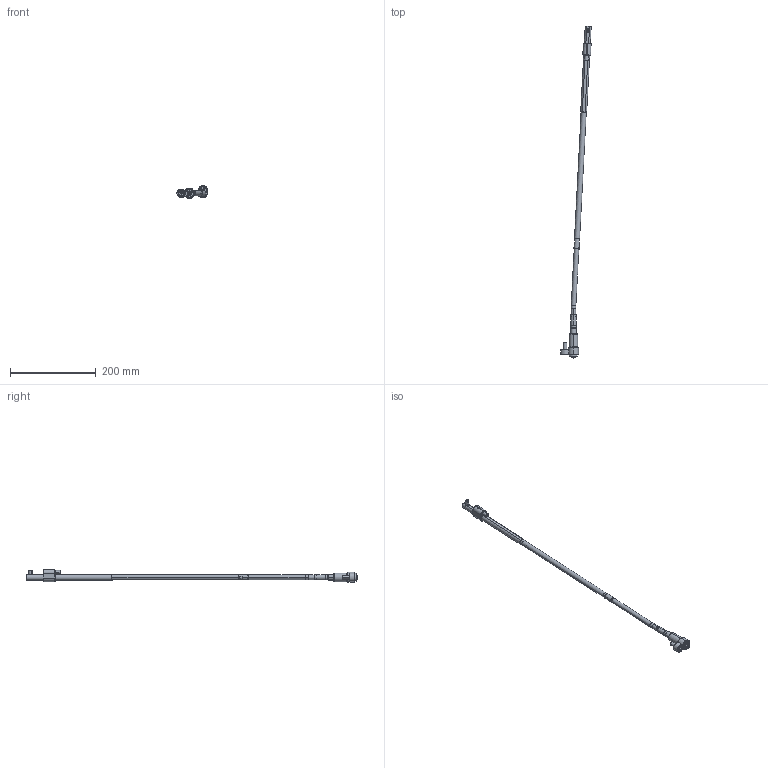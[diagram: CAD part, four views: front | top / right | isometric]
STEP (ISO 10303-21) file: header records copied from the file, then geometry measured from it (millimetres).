
FILE_DESCRIPTION (( 'STEP AP214' ), '1' );
FILE_NAME ('WL120125-EJE 3°.STEP', '2021-03-19T15:38:16', ( '' ), ( '' ), 'SwSTEP 2.0', 'SolidWorks 2019', '' );
FILE_SCHEMA (( 'AUTOMOTIVE_DESIGN' ));
Length unit declared in the file: millimetre
Products named in the file (17): Web-WL12-F00.SLDPRT; 8WL12EJEP; Web-WL12-A3; WL120100-E; WL120100-B1; Web-WL12-A8; 9DR2808-TOR; Web-WL12-XX_ON-WL120125-3; 1DIN912820_DIN 912 M8 x 20 --- 20C; Web-WL12-A2; Web-WL12-F01; 3IMAN5X3-150_con sellador; 1DIN912645_DIN 912 M6 x 45 --- 45C; WL120125-EJE 3°; WL120100-B; WL120100-D; Web-WL12-A1
Assembly tree (16 placements, depth 3):
  WL120125-EJE 3°
    Web-WL12-A8
    Web-WL12-XX_ON-WL120125-3
    Web-WL12-A3
    Web-WL12-A2
    Web-WL12-A1
    Web-WL12-F00.SLDPRT
      Web-WL12-F01
      1DIN912820_DIN 912 M8 x 20 --- 20C
      1DIN912645_DIN 912 M6 x 45 --- 45C
    WL120100-D
    8WL12EJEP
    WL120100-E
    9DR2808-TOR
    WL120100-B
      WL120100-B1
      3IMAN5X3-150_con sellador
Bounding box: 70.6 x 772.45 x 29.9 mm (x, y, z)
Volume: 116548.1 mm3; surface area: 51029.9 mm2
Topology: 15 solids, 15 shells, 432 faces, 906 edges, 525 vertices
Faces by surface type: plane 139, cylinder 123, cone 120, torus 50
Entity records: 13661 total; most frequent: DIRECTION 2240, CARTESIAN_POINT 2104, ORIENTED_EDGE 1788, AXIS2_PLACEMENT_3D 929, EDGE_CURVE 894, VERTEX_POINT 525, EDGE_LOOP 477, CIRCLE 476
